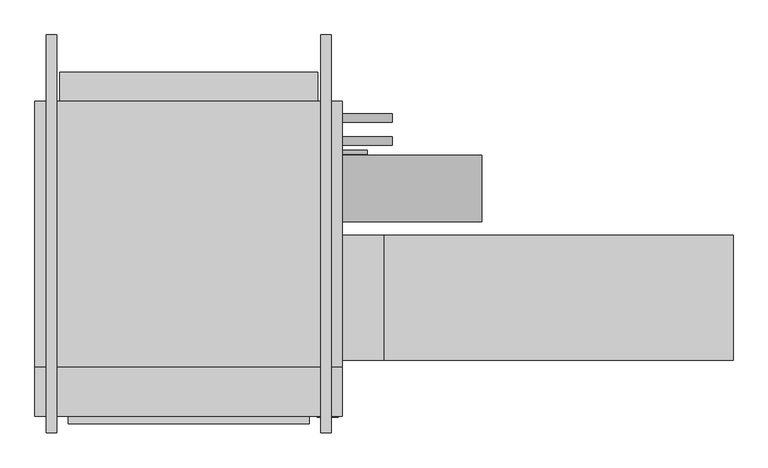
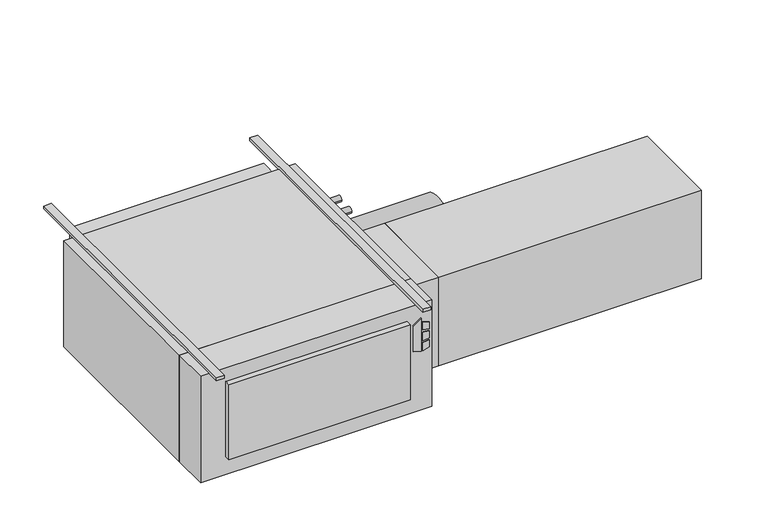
"""IFC4 building model written with IfcOpenShell, lengths in millimetres: proxy geometry."""

from ifc_helpers import new_model, si_unit, point, frame, frame_2d, origin, origin_with_axes, place, context, project, spatial, polyline, circle_curve, trimmed, segment, composite_curve, outline, extrude, source, transform, mapped, element, save


def mechanical_equipment_58405996(model_context):
    return source(origin(), model_context, "Body", "SweptSolid", [
        extrude(outline(polyline([(-193.2519297, 544.5868862), (-203.2, 576.7602728), (-61.0290756, 576.7602728), (-84.0510817, 544.5868862), (-193.2519297, 544.5868862)])), frame((0.0, -797.052, 0.0), z_axis=(0.0, 1.0, 0.0), x_axis=(0.0, 0.0, 1.0)), (0.0, 0.0, 1.0), 3.175),
        extrude(outline(polyline([(-114.2526443, 583.5186058), (-117.4550368, 609.6), (-88.2261958, 609.6), (-80.1617807, 583.5186058), (-114.2526443, 583.5186058)])), frame((0.0, -797.052, 0.0), z_axis=(0.0, 1.0, 0.0), x_axis=(0.0, 0.0, 1.0)), (0.0, 0.0, 1.0), 3.175),
        extrude(outline(polyline([(-166.1161712, 609.6), (-169.7816721, 583.5186058), (-203.2, 583.5186058), (-194.5657628, 609.6), (-166.1161712, 609.6)])), frame((0.0, -797.052, 0.0), z_axis=(0.0, 1.0, 0.0), x_axis=(0.0, 0.0, 1.0)), (0.0, 0.0, 1.0), 3.175),
        extrude(outline(polyline([(-126.8010097, 609.6), (-124.5191834, 583.5186058), (-160.4567319, 583.5186058), (-157.7154669, 609.6), (-126.8010097, 609.6)])), frame((0.0, -797.052, 0.0), z_axis=(0.0, 1.0, 0.0), x_axis=(0.0, 0.0, 1.0)), (0.0, 0.0, 1.0), 3.175),
        extrude(outline(polyline([(622.3, -793.877), (-317.5, -793.877), (-317.5, -644.525), (622.3, -644.525), (622.3, -793.877)])), frame((0.0, 0.0, -457.2), z_axis=(0.0, 0.0, 1.0), x_axis=(1.0, 0.0, 0.0)), (0.0, 0.0, 1.0), 457.2),
        extrude(outline(polyline([(520.7, -816.229), (-215.9, -816.229), (-215.9, -793.877), (520.7, -793.877), (520.7, -816.229)])), frame((0.0, 0.0, -381.0), z_axis=(0.0, 0.0, 1.0), x_axis=(1.0, 0.0, 0.0)), (0.0, 0.0, 1.0), 323.85),
        extrude(outline(polyline([(1816.1, -241.3), (1816.1, -622.3), (749.3, -622.3), (749.3, -241.3), (1816.1, -241.3)])), frame((0.0, 0.0, -431.8), z_axis=(0.0, 0.0, 1.0), x_axis=(1.0, 0.0, 0.0)), (0.0, 0.0, 1.0), 381.0),
        extrude(outline(polyline([(749.3, -241.3), (749.3, -622.3), (622.3, -622.3), (622.3, -241.3), (749.3, -241.3)])), frame((0.0, 0.0, -431.8), z_axis=(0.0, 0.0, 1.0), x_axis=(1.0, 0.0, 0.0)), (0.0, 0.0, 1.0), 381.0),
        extrude(outline(composite_curve([segment(trimmed(circle_curve(frame_2d((117.475, -171.45)), 12.7), [point((130.175, -171.45))], [point((104.775, -171.45))], False, "CARTESIAN"), True, "CONTINUOUS"), segment(trimmed(circle_curve(frame_2d((117.475, -171.45)), 12.7), [point((104.775, -171.45))], [point((130.175, -171.45))], False, "CARTESIAN"), True, "CONTINUOUS")], self_intersect=False)), frame((622.3, 0.0, 0.0), z_axis=(1.0, 0.0, 0.0), x_axis=(0.0, 1.0, 0.0)), (0.0, 0.0, 1.0), 152.4),
        extrude(outline(composite_curve([segment(trimmed(circle_curve(frame_2d((47.625, -177.8)), 12.7), [point((60.325, -177.8))], [point((34.925, -177.8))], False, "CARTESIAN"), True, "CONTINUOUS"), segment(trimmed(circle_curve(frame_2d((47.625, -177.8)), 12.7), [point((34.925, -177.8))], [point((60.325, -177.8))], False, "CARTESIAN"), True, "CONTINUOUS")], self_intersect=False)), frame((622.3, 0.0, 0.0), z_axis=(1.0, 0.0, 0.0), x_axis=(0.0, 1.0, 0.0)), (0.0, 0.0, 1.0), 152.4),
        extrude(outline(composite_curve([segment(trimmed(circle_curve(frame_2d((-98.4896516, -228.6360165)), 101.6), [point((3.1103484, -228.6360165))], [point((-200.0896516, -228.6360165))], False, "CARTESIAN"), True, "CONTINUOUS"), segment(trimmed(circle_curve(frame_2d((-98.4896516, -228.6360165)), 101.6), [point((-200.0896516, -228.6360165))], [point((3.1103484, -228.6360165))], False, "CARTESIAN"), True, "CONTINUOUS")], self_intersect=False)), frame((622.3, 0.0, 0.0), z_axis=(1.0, 0.0, 0.0), x_axis=(0.0, 1.0, 0.0)), (0.0, 0.0, 1.0), 425.45),
        extrude(outline(composite_curve([segment(trimmed(circle_curve(frame_2d((12.7, -409.575)), 6.35), [point((19.05, -409.575))], [point((6.35, -409.575))], False, "CARTESIAN"), True, "CONTINUOUS"), segment(trimmed(circle_curve(frame_2d((12.7, -409.575)), 6.35), [point((6.35, -409.575))], [point((19.05, -409.575))], False, "CARTESIAN"), True, "CONTINUOUS")], self_intersect=False)), frame((622.3, 0.0, 0.0), z_axis=(1.0, 0.0, 0.0), x_axis=(0.0, 1.0, 0.0)), (0.0, 0.0, 1.0), 76.2),
        extrude(outline(polyline([(622.3, 168.275), (622.3, -644.525), (-317.5, -644.525), (-317.5, 168.275), (622.3, 168.275)])), frame((0.0, 0.0, -457.2), z_axis=(0.0, 0.0, 1.0), x_axis=(1.0, 0.0, 0.0)), (0.0, 0.0, 1.0), 457.2),
        extrude(outline(polyline([(-241.3, 257.175), (546.1, 257.175), (546.1, 168.275), (-241.3, 168.275), (-241.3, 257.175)])), frame((0.0, 0.0, -381.0), z_axis=(0.0, 0.0, 1.0), x_axis=(1.0, 0.0, 0.0)), (0.0, 0.0, 1.0), 355.6),
        extrude(outline(polyline([(-250.825, 371.475), (-250.825, -844.677), (-282.575, -844.677), (-282.575, 371.475), (-250.825, 371.475)])), origin_with_axes(), (0.0, 0.0, 1.0), 12.7),
        extrude(outline(polyline([(587.375, 371.475), (587.375, -844.677), (555.625, -844.677), (555.625, 371.475), (587.375, 371.475)])), origin_with_axes(), (0.0, 0.0, 1.0), 12.7),
    ])


if __name__ == "__main__":
    model = new_model("IFC4")
    model_context = context("Model", 3, world=origin())
    ifc_project = project(units=[si_unit("LENGTHUNIT", "METRE", prefix="MILLI")], contexts=[model_context])
    site = spatial("IfcSite", under=ifc_project)
    building = spatial("IfcBuilding", under=site)
    placement = place(None, origin())
    mechanical_equipment_shape = mechanical_equipment_58405996(model_context)
    element("IfcBuildingElementProxy", 1, Name="High_Capacity_Horizontal_Cabinet_Fan_Coil_Unit_-_HTY_-_IEC_-_2 Pipe, Elec Heat_WO-Attenuator_RH Side_2022 : Size 12 - 277v/60Hz/1Ph - 8/0 Coil 9.0kW - 8\" AirIn", ObjectType="High_Capacity_Horizontal_Cabinet_Fan_Coil_Unit_-_HTY_-_IEC_-_2 Pipe, Elec Heat_WO-Attenuator_RH Side_2022 : Size 12 - 277v/60Hz/1Ph - 8/0 Coil 9.0kW - 8\" AirIn", at=placement, inside=building, context=model_context, shape_type="MappedRepresentation", body=[
        mapped(mechanical_equipment_shape, transform((0.0, 0.0, 0.0), x_axis=(1.0, 0.0, 0.0), y_axis=(0.0, 1.0, 0.0), z_axis=(0.0, 0.0, 1.0))),
    ])
    save(model, "model.ifc")
